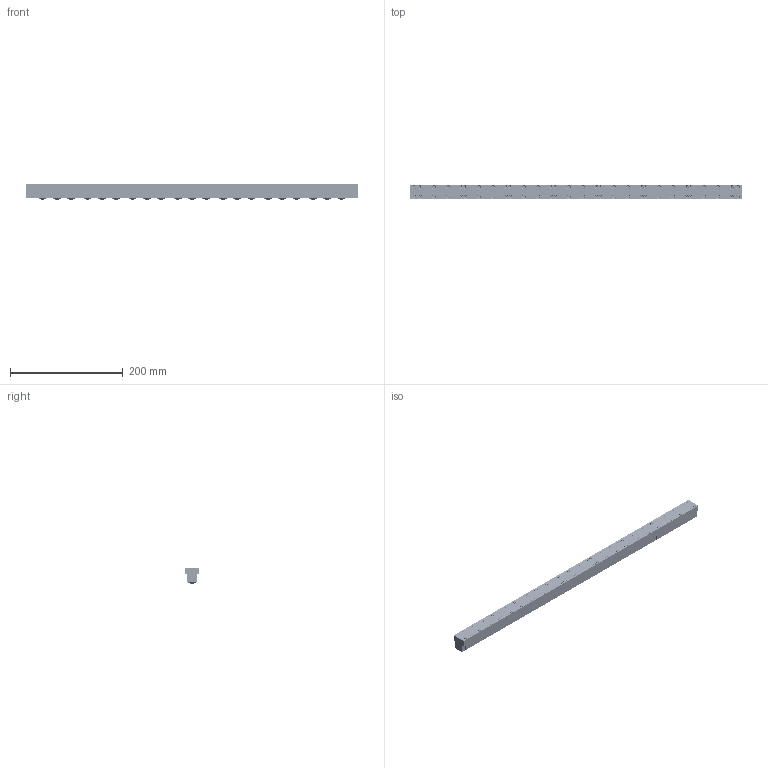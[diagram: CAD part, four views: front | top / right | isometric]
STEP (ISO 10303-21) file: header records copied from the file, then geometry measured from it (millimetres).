
FILE_DESCRIPTION(/* description */ (''),/* implementation_level */ '2;1');
FILE_NAME(/* name */ 'Z:\34-Tei\01-web 3Dデータ\43-ISR-18T\X2\578B\X0\\ISR-18T-590.stp',/* time_stamp */ '2015-01-16T10:27:20+09:00',/* author */ ('yamaki'),/* organization */ (''),/* preprocessor_version */ 'ST-DEVELOPER v15.6',/* originating_system */ 'Autodesk Inventor 2015',/* authorisation */ '');
FILE_SCHEMA (('AUTOMOTIVE_DESIGN { 1 0 10303 214 3 1 1 }'));
Length unit declared in the file: millimetre
Products named in the file (9): 4921; 4903TB; 4903CB; JIS B 1111 - Csunk M3 x 6 - H; JIS B 1176 - M3 x 10; 4903SL; A108AA; 4903PS; 4903AA
Bounding box: 590 x 25 x 28.97 mm (x, y, z)
Volume: 276273.1 mm3; surface area: 180230.8 mm2
Topology: 128 solids, 128 shells, 3345 faces, 8258 edges, 5301 vertices
Faces by surface type: plane 1237, cone 1075, cylinder 656, torus 335, sphere 21, bspline 21
Full cylindrical faces by diameter (mm): 2 x29, 2.459 x76, 2.693 x60, 3 x76, 3.242 x21, 3.5 x76, 5.5 x76, 6.2 x8, 8 x1, 10 x21, 13.4 x21, 13.9 x21, 14 x21, 16 x21, 19.8 x21, 20 x21
Entity records: 10573 total; most frequent: CARTESIAN_POINT 1953, DIRECTION 1874, ORIENTED_EDGE 1260, AXIS2_PLACEMENT_3D 813, EDGE_LOOP 681, EDGE_CURVE 630, VERTEX_POINT 505, FACE_BOUND 352
